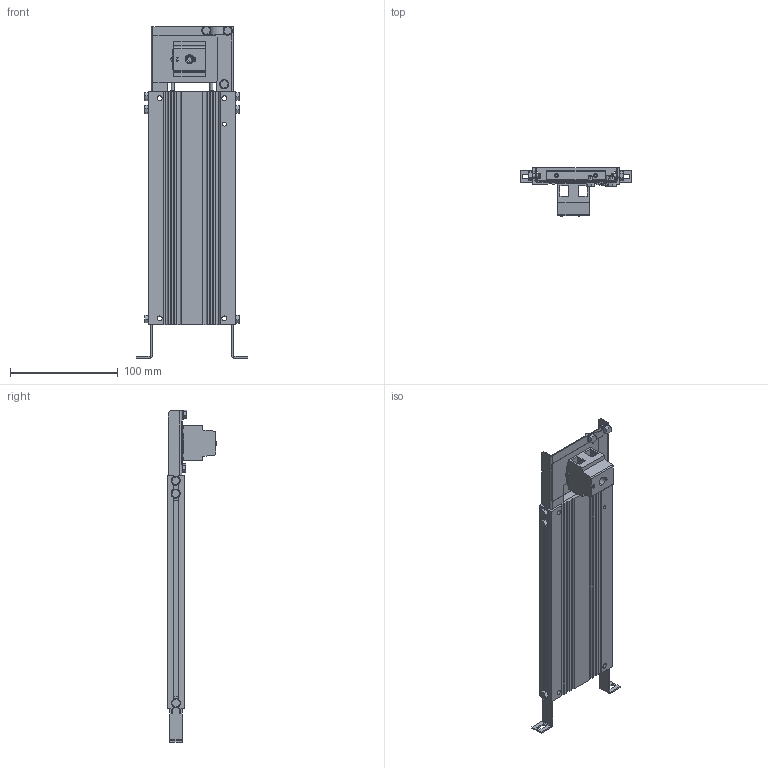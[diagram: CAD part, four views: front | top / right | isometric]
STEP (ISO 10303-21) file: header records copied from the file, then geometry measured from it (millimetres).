
FILE_DESCRIPTION (( 'STEP AP203' ), '1' );
FILE_NAME ('BAFP200-33-Step.STEP', '2011-09-13T07:40:37', ( 'Frizlen' ), ( 'Frizlen' ), 'SwSTEP 2.0', 'SolidWorks 2010', '' );
FILE_SCHEMA (( 'CONFIG_CONTROL_DESIGN' ));
Length unit declared in the file: millimetre
Products named in the file (13): Abschlussdeckel Aluprofil SLDPRT_Aludeckel für 70x15 ohne Bohrung; Abschlussdeckel Aluprofil SLDPRT_Aludeckel für 70x15 mit Bohrung; Schelle-OBO-7903-33164; Glimmerunterlage-G10_5-UL; MW02; Klemmkasten_G_HM; GWAD110x80; Aluprofil GW_GW216x80; Gewindefurchschraube SK M4x6; BAFP200-33-Step; Leitung-FEP-AWG14-19-gr; Leitung-FEP-AWG14-19-ws; Geräteklemme G10-2
Assembly tree (21 placements, depth 3):
  BAFP200-33-Step
    Gewindefurchschraube SK M4x6  x9
    Schelle-OBO-7903-33164
    Geräteklemme G10-2
    GWAD110x80
      Abschlussdeckel Aluprofil SLDPRT_Aludeckel für 70x15 ohne Bohrung
      Leitung-FEP-AWG14-19-gr
      Leitung-FEP-AWG14-19-ws
      Abschlussdeckel Aluprofil SLDPRT_Aludeckel für 70x15 mit Bohrung
      Aluprofil GW_GW216x80
    Glimmerunterlage-G10_5-UL
    MW02  x2
    Klemmkasten_G_HM
Bounding box: 103.5 x 44.65 x 307.64 mm (x, y, z)
Volume: 151597.3 mm3; surface area: 114110.2 mm2
Topology: 22 solids, 22 shells, 593 faces, 1436 edges, 908 vertices
Faces by surface type: plane 345, cylinder 170, torus 38, bspline 20, cone 18, sphere 2
Entity records: 13252 total; most frequent: CARTESIAN_POINT 2915, ORIENTED_EDGE 1828, DIRECTION 1728, EDGE_CURVE 914, LINE 668, VECTOR 668, VERTEX_POINT 596, AXIS2_PLACEMENT_3D 530
